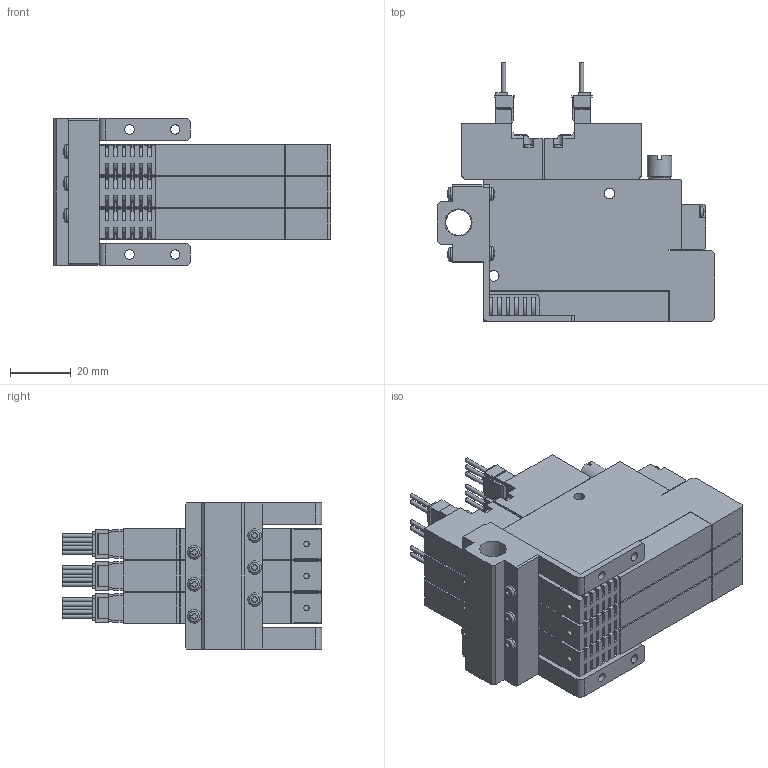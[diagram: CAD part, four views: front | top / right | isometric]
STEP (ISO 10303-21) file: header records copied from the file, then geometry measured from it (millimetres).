
FILE_DESCRIPTION(('STEP AP203'),'1');
FILE_NAME('5WS303_3D.stp','2024-09-04T09:40:58',(' '),(' '),'Spatial InterOp 3D',' ',' ');
FILE_SCHEMA(('CONFIG_CONTROL_DESIGN'));
Length unit declared in the file: millimetre
Products named in the file (5): BSC1M※※ZZ※5WS303; Solenoid valve W; Pressure Sensor ZZ; Unit-S; BaseMS30R
Assembly tree (10 placements, depth 2):
  BSC1M※※ZZ※5WS303
    Solenoid valve W  x3
    Pressure Sensor ZZ  x3
    Unit-S  x3
    BaseMS30R
Bounding box: 91 x 85.05 x 48 mm (x, y, z)
Volume: 139898.2 mm3; surface area: 58779.6 mm2
Topology: 10 solids, 10 shells, 1406 faces, 3843 edges, 2548 vertices
Faces by surface type: plane 1027, cylinder 330, cone 17, sphere 16, torus 16
Full cylindrical faces by diameter (mm): 1.4 x15, 1.8 x3, 2.5 x6, 3 x16, 3.5 x18, 4 x3, 4.134 x6, 4.5 x10, 5.5 x3, 7 x3, 7.7 x3, 8 x3, 8.422 x1
Entity records: 19020 total; most frequent: CARTESIAN_POINT 4070, ORIENTED_EDGE 2994, DIRECTION 2968, EDGE_CURVE 1497, LINE 1086, VECTOR 1086, VERTEX_POINT 1033, AXIS2_PLACEMENT_3D 941
